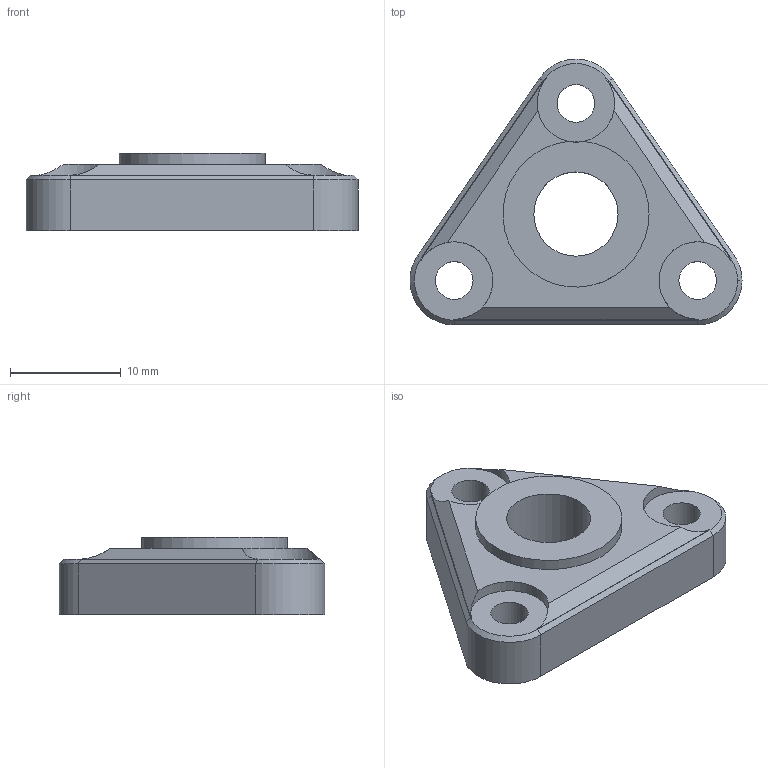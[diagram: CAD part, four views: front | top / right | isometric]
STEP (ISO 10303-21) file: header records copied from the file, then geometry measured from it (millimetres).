
FILE_DESCRIPTION(('FreeCAD Model'),'2;1');
FILE_NAME('Open CASCADE Shape Model','2026-09-29T21:45:24',('Author'),( ''),'Open CASCADE STEP processor 7.8','FreeCAD','Unknown');
FILE_SCHEMA(('AUTOMOTIVE_DESIGN { 1 0 10303 214 1 1 1 1 }'));
Length unit declared in the file: millimetre
Products named in the file (1): cable_pressure_cap
Bounding box: 29.99 x 24 x 7 mm (x, y, z)
Volume: 2309.6 mm3; surface area: 1625.1 mm2
Topology: 1 solids, 1 shells, 34 faces, 94 edges, 63 vertices
Faces by surface type: cylinder 11, plane 10, bspline 9, cone 4
Full cylindrical faces by diameter (mm): 3.4 x3, 7.6 x1
Entity records: 1595 total; most frequent: CARTESIAN_POINT 757, ORIENTED_EDGE 188, DIRECTION 150, EDGE_CURVE 94, VERTEX_POINT 63, AXIS2_PLACEMENT_3D 61, FACE_BOUND 43, EDGE_LOOP 43
